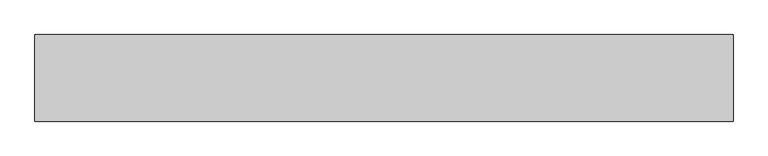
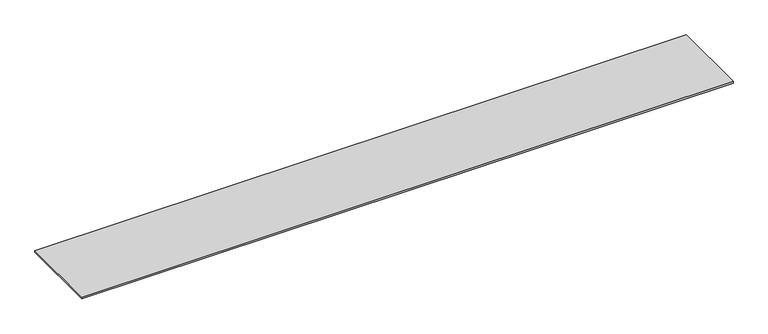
"""IFC4 building model written with IfcOpenShell, lengths in millimetres: furniture geometry, Bancada_balcao : Bancada cantina."""

from ifc_helpers import new_model, si_unit, frame, origin, place, context, project, spatial, polyline, outline, extrude, source, transform, mapped, element, save


def furniture_52fb6396(model_context):
    return source(origin(), model_context, "Body", "SweptSolid", [
        extrude(outline(polyline([(3469.7003264, 0.0), (3469.7003264, -849.993516), (-3380.2996736, -849.993516), (-3380.2996736, 0.0), (3469.7003264, 0.0)])), frame((0.0, 0.0, 880.0), z_axis=(0.0, 0.0, 1.0), x_axis=(1.0, 0.0, 0.0)), (0.0, 0.0, 1.0), 20.0),
    ])


if __name__ == "__main__":
    model = new_model("IFC4")
    model_context = context("Model", 3, world=origin())
    ifc_project = project(units=[si_unit("LENGTHUNIT", "METRE", prefix="MILLI")], contexts=[model_context])
    site = spatial("IfcSite", under=ifc_project)
    building = spatial("IfcBuilding", under=site)
    placement = place(None, origin())
    furniture_shape = furniture_52fb6396(model_context)
    element("IfcFurniture", 1, ObjectType="Bancada_balcao : Bancada cantina", at=placement, inside=building, context=model_context, shape_type="MappedRepresentation", body=[
        mapped(furniture_shape, transform((0.0, 0.0, 0.0), x_axis=(1.0, 0.0, 0.0), y_axis=(0.0, 1.0, 0.0), z_axis=(0.0, 0.0, 1.0))),
    ])
    save(model, "model.ifc")
